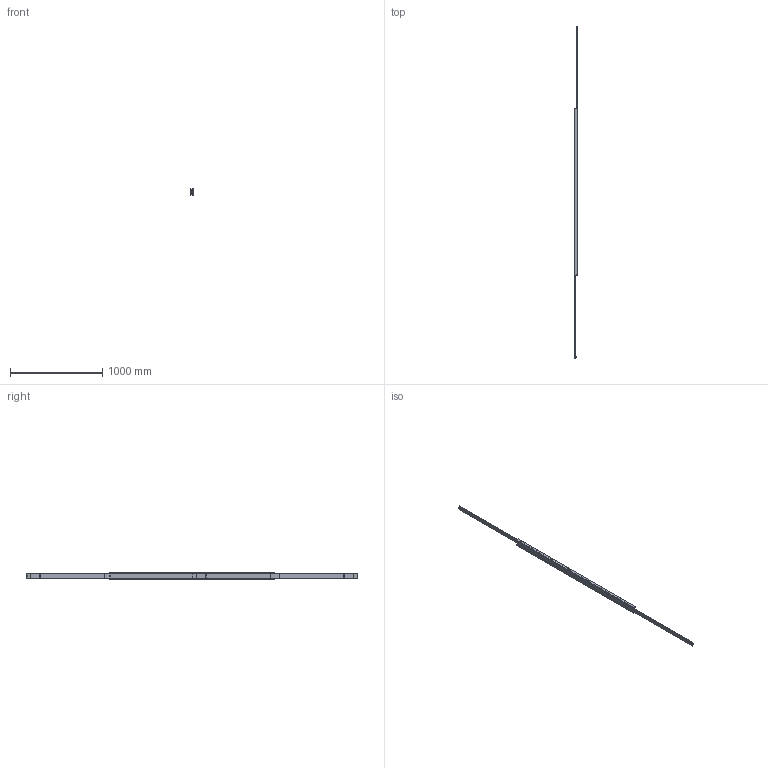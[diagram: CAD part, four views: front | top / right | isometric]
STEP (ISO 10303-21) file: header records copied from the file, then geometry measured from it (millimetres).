
FILE_DESCRIPTION(/* description */ (''),/* implementation_level */ '2;1');
FILE_NAME(/* name */ 'D:\Zeichnungen Schienen Komplett\MX-DTP70\MX-DTP70.180\MX-DTP70.180_ausgefahren.step',/* time_stamp */ '2022-08-31T08:28:16+02:00',/* author */ ('zmile'),/* organization */ (''),/* preprocessor_version */ 'ST-DEVELOPER v16.13',/* originating_system */ 'AutoCAD Mechanical',/* authorisation */ '');
FILE_SCHEMA (('AUTOMOTIVE_DESIGN { 1 0 10303 214 3 1 1 }'));
Products named in the file (1): Product
Bounding box: 32 x 3600 x 70 mm (x, y, z)
Volume: 3200573.4 mm3; surface area: 1132915.6 mm2
Topology: 123 solids, 123 shells, 450 faces, 1288 edges, 856 vertices
Faces by surface type: cylinder 156, sphere 116, plane 86, bspline 86, torus 6
Full cylindrical faces by diameter (mm): 9 x116, 13 x2
Entity records: 196577 total; most frequent: CARTESIAN_POINT 186143, ORIENTED_EDGE 1860, DIRECTION 1822, EDGE_CURVE 930, EDGE_LOOP 862, VERTEX_POINT 854, AXIS2_PLACEMENT_3D 805, FACE_OUTER_BOUND 450
